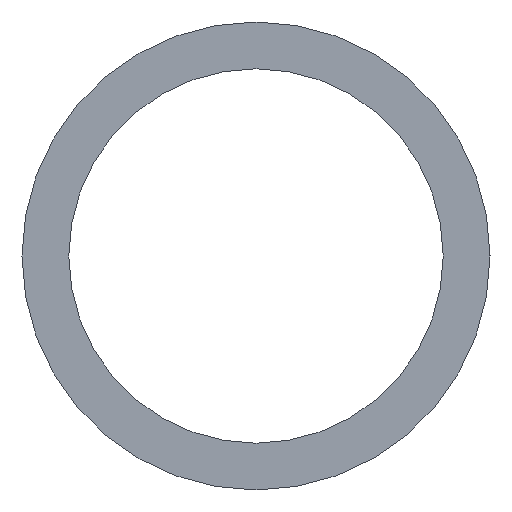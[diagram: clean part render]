
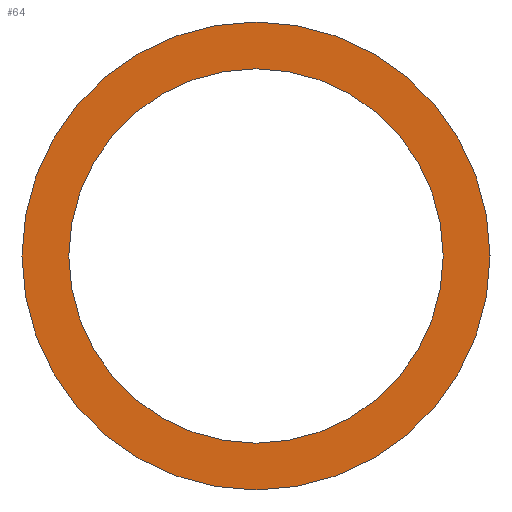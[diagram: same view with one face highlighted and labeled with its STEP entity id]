
A CAD part, left-side view. The second image highlights one B-rep face of the part: STEP entity #64.
In plain terms, the highlighted planar face has unit normal (-1, 0, 0).
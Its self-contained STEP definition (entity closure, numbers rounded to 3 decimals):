
#16=FACE_BOUND('',#28,.T.);
#18=PLANE('',#86);
#22=FACE_OUTER_BOUND('',#27,.T.);
#27=EDGE_LOOP('',(#57));
#28=EDGE_LOOP('',(#58));
#34=CIRCLE('',#81,4.);
#36=CIRCLE('',#84,5.);
#38=VERTEX_POINT('',#111);
#40=VERTEX_POINT('',#117);
#43=EDGE_CURVE('',#38,#38,#34,.T.);
#46=EDGE_CURVE('',#40,#40,#36,.T.);
#57=ORIENTED_EDGE('',*,*,#46,.F.);
#58=ORIENTED_EDGE('',*,*,#43,.F.);
#64=ADVANCED_FACE('',(#22,#16),#18,.F.);
#81=AXIS2_PLACEMENT_3D('',#113,#94,#95);
#84=AXIS2_PLACEMENT_3D('',#119,#101,#102);
#86=AXIS2_PLACEMENT_3D('',#121,#105,#106);
#94=DIRECTION('center_axis',(-1.,0.,0.));
#95=DIRECTION('ref_axis',(0.,0.,-1.));
#101=DIRECTION('center_axis',(1.,0.,0.));
#102=DIRECTION('ref_axis',(0.,0.,-1.));
#105=DIRECTION('center_axis',(1.,0.,0.));
#106=DIRECTION('ref_axis',(0.,0.,-1.));
#111=CARTESIAN_POINT('',(0.,0.,4.));
#113=CARTESIAN_POINT('Origin',(0.,0.,0.));
#117=CARTESIAN_POINT('',(0.,0.,5.));
#119=CARTESIAN_POINT('Origin',(0.,0.,0.));
#121=CARTESIAN_POINT('Origin',(0.,0.,0.));
